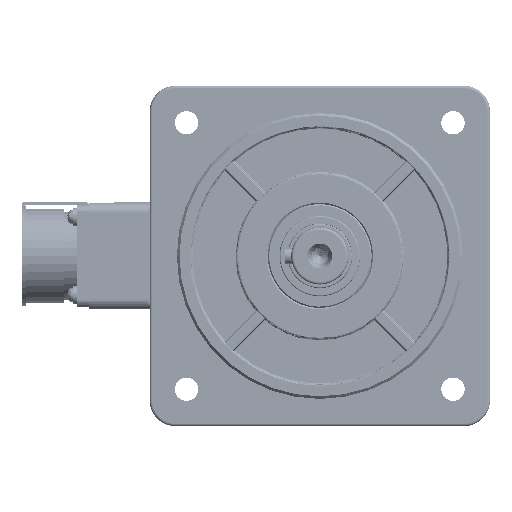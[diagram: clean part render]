
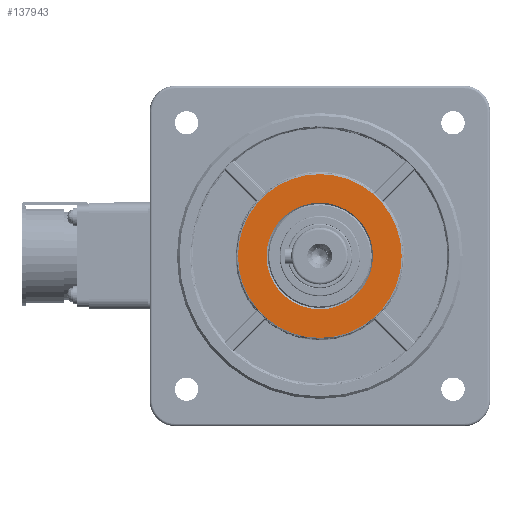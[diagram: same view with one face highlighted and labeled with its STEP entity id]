
A CAD part, left-side view. The second image highlights one B-rep face of the part: STEP entity #137943.
In plain terms, the highlighted planar face has unit normal (-1, 0, 0) as drawn and (1, 0, 0) by its records, which use the part's own axes.
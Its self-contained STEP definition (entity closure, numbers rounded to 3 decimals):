
#5033 = CARTESIAN_POINT ( 'NONE',  ( 30., 0., -20.5 ) ) ;
#9148 = DIRECTION ( 'NONE',  ( 1., 0., 0. ) ) ;
#9379 = CARTESIAN_POINT ( 'NONE',  ( 30., 0., 31.5 ) ) ;
#10510 = CARTESIAN_POINT ( 'NONE',  ( 30., 20., 0. ) ) ;
#12797 = CARTESIAN_POINT ( 'NONE',  ( 30., 0., 0. ) ) ;
#13027 = CARTESIAN_POINT ( 'NONE',  ( 30., 0., 0. ) ) ;
#13160 = EDGE_LOOP ( 'NONE', ( #50882, #123396 ) ) ;
#14915 = EDGE_CURVE ( 'NONE', #75793, #64753, #142129, .T. ) ;
#21784 = FACE_BOUND ( 'NONE', #13160, .T. ) ;
#22961 = CIRCLE ( 'NONE', #106893, 31.5 ) ;
#24920 = CARTESIAN_POINT ( 'NONE',  ( 30., 0., 20.5 ) ) ;
#32888 = DIRECTION ( 'NONE',  ( 1., 0., 0. ) ) ;
#38542 = AXIS2_PLACEMENT_3D ( 'NONE', #12797, #58653, #104381 ) ;
#47446 = CARTESIAN_POINT ( 'NONE',  ( 30., 0., -31.5 ) ) ;
#50882 = ORIENTED_EDGE ( 'NONE', *, *, #14915, .T. ) ;
#54970 = DIRECTION ( 'NONE',  ( 0., 0., 1. ) ) ;
#56354 = DIRECTION ( 'NONE',  ( -1., 0., 0. ) ) ;
#58653 = DIRECTION ( 'NONE',  ( -1., 0., 0. ) ) ;
#58877 = DIRECTION ( 'NONE',  ( -1., 0., 0. ) ) ;
#64184 = CIRCLE ( 'NONE', #148019, 31.5 ) ;
#64753 = VERTEX_POINT ( 'NONE', #24920 ) ;
#66034 = EDGE_LOOP ( 'NONE', ( #134501, #95161 ) ) ;
#67616 = FACE_OUTER_BOUND ( 'NONE', #66034, .T. ) ;
#75449 = EDGE_CURVE ( 'NONE', #87268, #117733, #64184, .T. ) ;
#75793 = VERTEX_POINT ( 'NONE', #5033 ) ;
#77422 = AXIS2_PLACEMENT_3D ( 'NONE', #13027, #58877, #104612 ) ;
#78729 = DIRECTION ( 'NONE',  ( 0., 0., 1. ) ) ;
#87268 = VERTEX_POINT ( 'NONE', #9379 ) ;
#95161 = ORIENTED_EDGE ( 'NONE', *, *, #117599, .T. ) ;
#95400 = EDGE_CURVE ( 'NONE', #64753, #75793, #103254, .T. ) ;
#102095 = DIRECTION ( 'NONE',  ( 0., 0., 1. ) ) ;
#103254 = CIRCLE ( 'NONE', #38542, 20.5 ) ;
#104381 = DIRECTION ( 'NONE',  ( 0., 0., 1. ) ) ;
#104612 = DIRECTION ( 'NONE',  ( 0., 0., 1. ) ) ;
#104853 = AXIS2_PLACEMENT_3D ( 'NONE', #10510, #56354, #102095 ) ;
#106893 = AXIS2_PLACEMENT_3D ( 'NONE', #111996, #9148, #54970 ) ;
#111996 = CARTESIAN_POINT ( 'NONE',  ( 30., 0., 0. ) ) ;
#113342 = PLANE ( 'NONE',  #104853 ) ;
#117599 = EDGE_CURVE ( 'NONE', #117733, #87268, #22961, .T. ) ;
#117733 = VERTEX_POINT ( 'NONE', #47446 ) ;
#123396 = ORIENTED_EDGE ( 'NONE', *, *, #95400, .T. ) ;
#134501 = ORIENTED_EDGE ( 'NONE', *, *, #75449, .T. ) ;
#135730 = CARTESIAN_POINT ( 'NONE',  ( 30., 0., 0. ) ) ;
#137943 = ADVANCED_FACE ( 'NONE', ( #21784, #67616 ), #113342, .F. ) ;
#142129 = CIRCLE ( 'NONE', #77422, 20.5 ) ;
#148019 = AXIS2_PLACEMENT_3D ( 'NONE', #135730, #32888, #78729 ) ;
